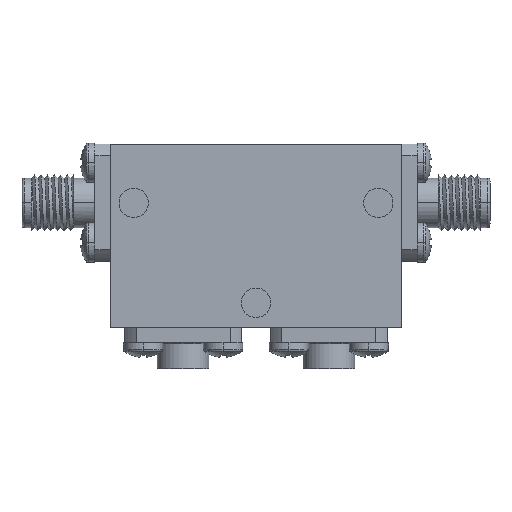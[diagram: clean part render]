
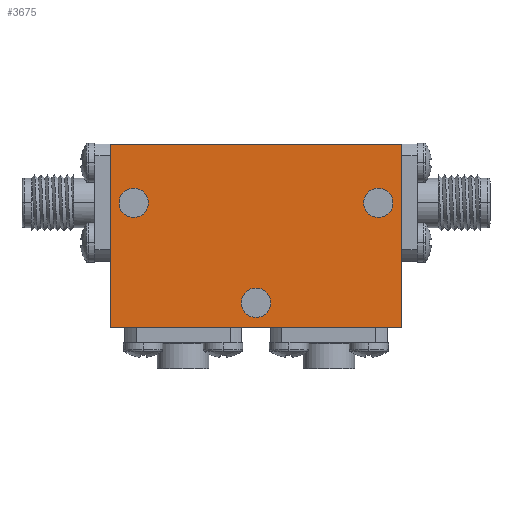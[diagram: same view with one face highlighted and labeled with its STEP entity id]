
A CAD part, top view. The second image highlights one B-rep face of the part: STEP entity #3675.
In plain terms, the highlighted planar face has unit normal (0, 0, 1).
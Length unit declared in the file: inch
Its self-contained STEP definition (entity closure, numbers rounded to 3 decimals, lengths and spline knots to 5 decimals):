
#140 = VECTOR ( 'NONE', #4796, 39.37008 ) ;
#217 = EDGE_CURVE ( 'NONE', #4318, #3478, #1073, .T. ) ;
#336 = CARTESIAN_POINT ( 'NONE',  ( -0.52, 0.14, 0.25 ) ) ;
#362 = FACE_OUTER_BOUND ( 'NONE', #4868, .T. ) ;
#426 = DIRECTION ( 'NONE',  ( 1., 0., 0. ) ) ;
#513 = DIRECTION ( 'NONE',  ( 0., 0., 1. ) ) ;
#546 = CARTESIAN_POINT ( 'NONE',  ( -0.52, 0.14, 0.25 ) ) ;
#610 = EDGE_CURVE ( 'NONE', #1093, #2431, #635, .T. ) ;
#635 = CIRCLE ( 'NONE', #1149, 0.0625 ) ;
#645 = DIRECTION ( 'NONE',  ( 0., 0., 1. ) ) ;
#690 = CARTESIAN_POINT ( 'NONE',  ( -0.62, -0.39, 0.25 ) ) ;
#770 = FACE_BOUND ( 'NONE', #898, .T. ) ;
#795 = EDGE_LOOP ( 'NONE', ( #1555, #2147 ) ) ;
#898 = EDGE_LOOP ( 'NONE', ( #1564, #3990 ) ) ;
#954 = CARTESIAN_POINT ( 'NONE',  ( 0.52, 0.14, 0.25 ) ) ;
#1021 = CARTESIAN_POINT ( 'NONE',  ( 0., -0.285, 0.25 ) ) ;
#1073 = LINE ( 'NONE', #1099, #3614 ) ;
#1089 = CIRCLE ( 'NONE', #1769, 0.0625 ) ;
#1093 = VERTEX_POINT ( 'NONE', #2331 ) ;
#1099 = CARTESIAN_POINT ( 'NONE',  ( -0.62, -0.39, 0.25 ) ) ;
#1149 = AXIS2_PLACEMENT_3D ( 'NONE', #954, #3599, #1321 ) ;
#1159 = DIRECTION ( 'NONE',  ( -1., 0., 0. ) ) ;
#1321 = DIRECTION ( 'NONE',  ( 1., 0., 0. ) ) ;
#1326 = ORIENTED_EDGE ( 'NONE', *, *, #3507, .T. ) ;
#1376 = CARTESIAN_POINT ( 'NONE',  ( -0.62, 0.39, 0.25 ) ) ;
#1452 = AXIS2_PLACEMENT_3D ( 'NONE', #2395, #513, #3166 ) ;
#1484 = FACE_BOUND ( 'NONE', #795, .T. ) ;
#1486 = AXIS2_PLACEMENT_3D ( 'NONE', #336, #2207, #4877 ) ;
#1488 = DIRECTION ( 'NONE',  ( 1., 0., 0. ) ) ;
#1555 = ORIENTED_EDGE ( 'NONE', *, *, #3598, .F. ) ;
#1564 = ORIENTED_EDGE ( 'NONE', *, *, #4513, .F. ) ;
#1612 = CIRCLE ( 'NONE', #1486, 0.0625 ) ;
#1752 = DIRECTION ( 'NONE',  ( 0., 0., 1. ) ) ;
#1769 = AXIS2_PLACEMENT_3D ( 'NONE', #1021, #1752, #4802 ) ;
#1886 = EDGE_CURVE ( 'NONE', #3478, #2669, #2432, .T. ) ;
#1955 = FACE_BOUND ( 'NONE', #4387, .T. ) ;
#1987 = AXIS2_PLACEMENT_3D ( 'NONE', #4184, #3462, #426 ) ;
#2053 = CARTESIAN_POINT ( 'NONE',  ( 0.5825, 0.14, 0.25 ) ) ;
#2147 = ORIENTED_EDGE ( 'NONE', *, *, #2544, .F. ) ;
#2207 = DIRECTION ( 'NONE',  ( 0., 0., 1. ) ) ;
#2208 = VERTEX_POINT ( 'NONE', #3287 ) ;
#2210 = DIRECTION ( 'NONE',  ( 0., 1., 0. ) ) ;
#2331 = CARTESIAN_POINT ( 'NONE',  ( 0.4575, 0.14, 0.25 ) ) ;
#2379 = ORIENTED_EDGE ( 'NONE', *, *, #3297, .T. ) ;
#2395 = CARTESIAN_POINT ( 'NONE',  ( 0.52, 0.14, 0.25 ) ) ;
#2431 = VERTEX_POINT ( 'NONE', #2053 ) ;
#2432 = LINE ( 'NONE', #3380, #4645 ) ;
#2479 = CIRCLE ( 'NONE', #1987, 0.0625 ) ;
#2544 = EDGE_CURVE ( 'NONE', #2208, #4508, #1089, .T. ) ;
#2669 = VERTEX_POINT ( 'NONE', #3347 ) ;
#2840 = CARTESIAN_POINT ( 'NONE',  ( 0.0625, -0.285, 0.25 ) ) ;
#3015 = VECTOR ( 'NONE', #1159, 39.37008 ) ;
#3031 = VERTEX_POINT ( 'NONE', #3149 ) ;
#3032 = ORIENTED_EDGE ( 'NONE', *, *, #1886, .T. ) ;
#3071 = CIRCLE ( 'NONE', #3228, 0.0625 ) ;
#3078 = CARTESIAN_POINT ( 'NONE',  ( -0.4575, 0.14, 0.25 ) ) ;
#3149 = CARTESIAN_POINT ( 'NONE',  ( -0.62, 0.39, 0.25 ) ) ;
#3166 = DIRECTION ( 'NONE',  ( 1., 0., 0. ) ) ;
#3228 = AXIS2_PLACEMENT_3D ( 'NONE', #546, #4680, #3593 ) ;
#3267 = ORIENTED_EDGE ( 'NONE', *, *, #610, .F. ) ;
#3287 = CARTESIAN_POINT ( 'NONE',  ( -0.0625, -0.285, 0.25 ) ) ;
#3297 = EDGE_CURVE ( 'NONE', #3031, #4318, #3673, .T. ) ;
#3347 = CARTESIAN_POINT ( 'NONE',  ( 0.62, 0.39, 0.25 ) ) ;
#3380 = CARTESIAN_POINT ( 'NONE',  ( 0.62, 0.39, 0.25 ) ) ;
#3389 = DIRECTION ( 'NONE',  ( 1., 0., 0. ) ) ;
#3393 = AXIS2_PLACEMENT_3D ( 'NONE', #4478, #645, #1488 ) ;
#3462 = DIRECTION ( 'NONE',  ( 0., 0., 1. ) ) ;
#3474 = EDGE_CURVE ( 'NONE', #4152, #3652, #1612, .T. ) ;
#3478 = VERTEX_POINT ( 'NONE', #3727 ) ;
#3507 = EDGE_CURVE ( 'NONE', #2669, #3031, #4863, .T. ) ;
#3591 = ORIENTED_EDGE ( 'NONE', *, *, #217, .T. ) ;
#3593 = DIRECTION ( 'NONE',  ( 1., 0., 0. ) ) ;
#3598 = EDGE_CURVE ( 'NONE', #4508, #2208, #2479, .T. ) ;
#3599 = DIRECTION ( 'NONE',  ( 0., 0., 1. ) ) ;
#3614 = VECTOR ( 'NONE', #3389, 39.37008 ) ;
#3652 = VERTEX_POINT ( 'NONE', #3078 ) ;
#3673 = LINE ( 'NONE', #1376, #140 ) ;
#3675 = ADVANCED_FACE ( 'NONE', ( #1955, #1484, #770, #362 ), #4222, .T. ) ;
#3717 = ORIENTED_EDGE ( 'NONE', *, *, #4489, .F. ) ;
#3727 = CARTESIAN_POINT ( 'NONE',  ( 0.62, -0.39, 0.25 ) ) ;
#3766 = CARTESIAN_POINT ( 'NONE',  ( -0.62, 0.39, 0.25 ) ) ;
#3990 = ORIENTED_EDGE ( 'NONE', *, *, #3474, .F. ) ;
#4152 = VERTEX_POINT ( 'NONE', #4189 ) ;
#4184 = CARTESIAN_POINT ( 'NONE',  ( 0., -0.285, 0.25 ) ) ;
#4189 = CARTESIAN_POINT ( 'NONE',  ( -0.5825, 0.14, 0.25 ) ) ;
#4222 = PLANE ( 'NONE',  #3393 ) ;
#4318 = VERTEX_POINT ( 'NONE', #690 ) ;
#4387 = EDGE_LOOP ( 'NONE', ( #3717, #3267 ) ) ;
#4478 = CARTESIAN_POINT ( 'NONE',  ( 0., 0., 0.25 ) ) ;
#4489 = EDGE_CURVE ( 'NONE', #2431, #1093, #4742, .T. ) ;
#4508 = VERTEX_POINT ( 'NONE', #2840 ) ;
#4513 = EDGE_CURVE ( 'NONE', #3652, #4152, #3071, .T. ) ;
#4645 = VECTOR ( 'NONE', #2210, 39.37008 ) ;
#4680 = DIRECTION ( 'NONE',  ( 0., 0., 1. ) ) ;
#4742 = CIRCLE ( 'NONE', #1452, 0.0625 ) ;
#4796 = DIRECTION ( 'NONE',  ( 0., -1., 0. ) ) ;
#4802 = DIRECTION ( 'NONE',  ( 1., 0., 0. ) ) ;
#4863 = LINE ( 'NONE', #3766, #3015 ) ;
#4868 = EDGE_LOOP ( 'NONE', ( #3032, #1326, #2379, #3591 ) ) ;
#4877 = DIRECTION ( 'NONE',  ( 1., 0., 0. ) ) ;
